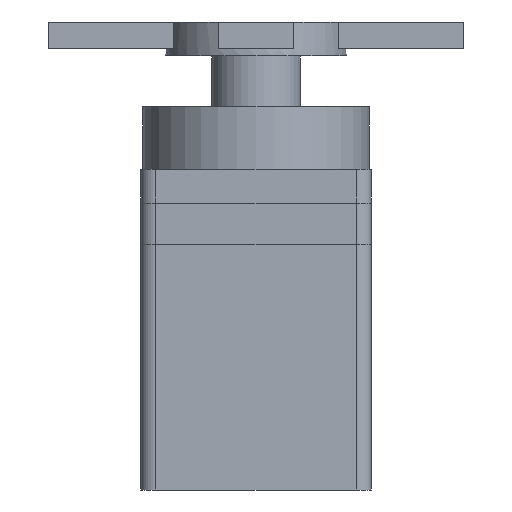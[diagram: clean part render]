
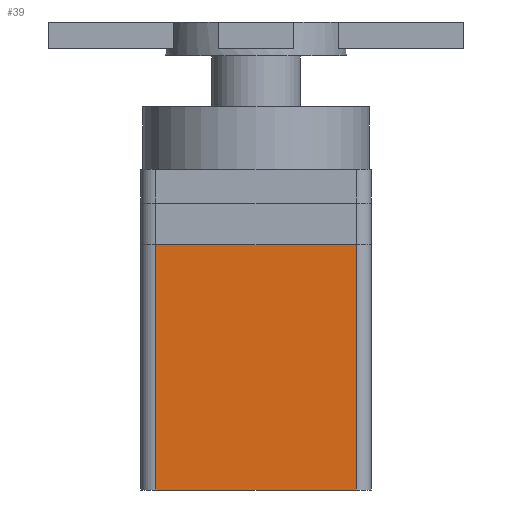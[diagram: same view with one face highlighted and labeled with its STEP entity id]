
A CAD part, left-side view. The second image highlights one B-rep face of the part: STEP entity #39.
In plain terms, the highlighted planar face has unit normal (-1, 0, 0).
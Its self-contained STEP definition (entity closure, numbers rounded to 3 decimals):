
#39 = ADVANCED_FACE('',(#40),#54,.F.);
#40 = FACE_BOUND('',#41,.F.);
#41 = EDGE_LOOP('',(#42,#75,#103,#131));
#42 = ORIENTED_EDGE('',*,*,#43,.T.);
#43 = EDGE_CURVE('',#44,#46,#48,.T.);
#44 = VERTEX_POINT('',#45);
#45 = CARTESIAN_POINT('',(-11.4,5.3,-8.));
#46 = VERTEX_POINT('',#47);
#47 = CARTESIAN_POINT('',(-11.4,-5.3,-8.));
#48 = SURFACE_CURVE('',#49,(#53,#64),.PCURVE_S1.);
#49 = LINE('',#50,#51);
#50 = CARTESIAN_POINT('',(-11.4,-6.1,-8.));
#51 = VECTOR('',#52,1.);
#52 = DIRECTION('',(0.,-1.,0.));
#53 = PCURVE('',#54,#59);
#54 = PLANE('',#55);
#55 = AXIS2_PLACEMENT_3D('',#56,#57,#58);
#56 = CARTESIAN_POINT('',(-11.4,-6.1,-21.));
#57 = DIRECTION('',(1.,0.,0.));
#58 = DIRECTION('',(0.,0.,1.));
#59 = DEFINITIONAL_REPRESENTATION('',(#60),#63);
#60 = B_SPLINE_CURVE_WITH_KNOTS('',1,(#61,#62),.UNSPECIFIED.,.F.,.F.,(2,
    2),(-12.2,0.),.PIECEWISE_BEZIER_KNOTS.);
#61 = CARTESIAN_POINT('',(13.,-12.2));
#62 = CARTESIAN_POINT('',(13.,0.));
#63 = ( GEOMETRIC_REPRESENTATION_CONTEXT(2) 
PARAMETRIC_REPRESENTATION_CONTEXT() REPRESENTATION_CONTEXT('2D SPACE',''
  ) );
#64 = PCURVE('',#65,#70);
#65 = PLANE('',#66);
#66 = AXIS2_PLACEMENT_3D('',#67,#68,#69);
#67 = CARTESIAN_POINT('',(-16.2,-6.1,-8.));
#68 = DIRECTION('',(0.,0.,1.));
#69 = DIRECTION('',(1.,0.,0.));
#70 = DEFINITIONAL_REPRESENTATION('',(#71),#74);
#71 = B_SPLINE_CURVE_WITH_KNOTS('',1,(#72,#73),.UNSPECIFIED.,.F.,.F.,(2,
    2),(-12.2,0.),.PIECEWISE_BEZIER_KNOTS.);
#72 = CARTESIAN_POINT('',(4.8,12.2));
#73 = CARTESIAN_POINT('',(4.8,0.));
#74 = ( GEOMETRIC_REPRESENTATION_CONTEXT(2) 
PARAMETRIC_REPRESENTATION_CONTEXT() REPRESENTATION_CONTEXT('2D SPACE',''
  ) );
#75 = ORIENTED_EDGE('',*,*,#76,.F.);
#76 = EDGE_CURVE('',#77,#46,#79,.T.);
#77 = VERTEX_POINT('',#78);
#78 = CARTESIAN_POINT('',(-11.4,-5.3,-21.));
#79 = SURFACE_CURVE('',#80,(#84,#91),.PCURVE_S1.);
#80 = LINE('',#81,#82);
#81 = CARTESIAN_POINT('',(-11.4,-5.3,-21.));
#82 = VECTOR('',#83,1.);
#83 = DIRECTION('',(0.,0.,1.));
#84 = PCURVE('',#54,#85);
#85 = DEFINITIONAL_REPRESENTATION('',(#86),#90);
#86 = LINE('',#87,#88);
#87 = CARTESIAN_POINT('',(0.,-0.8));
#88 = VECTOR('',#89,1.);
#89 = DIRECTION('',(1.,0.));
#90 = ( GEOMETRIC_REPRESENTATION_CONTEXT(2) 
PARAMETRIC_REPRESENTATION_CONTEXT() REPRESENTATION_CONTEXT('2D SPACE',''
  ) );
#91 = PCURVE('',#92,#97);
#92 = CYLINDRICAL_SURFACE('',#93,0.8);
#93 = AXIS2_PLACEMENT_3D('',#94,#95,#96);
#94 = CARTESIAN_POINT('',(-10.6,-5.3,-21.));
#95 = DIRECTION('',(0.,0.,1.));
#96 = DIRECTION('',(-1.,-0.,0.));
#97 = DEFINITIONAL_REPRESENTATION('',(#98),#102);
#98 = LINE('',#99,#100);
#99 = CARTESIAN_POINT('',(0.,0.));
#100 = VECTOR('',#101,1.);
#101 = DIRECTION('',(0.,1.));
#102 = ( GEOMETRIC_REPRESENTATION_CONTEXT(2) 
PARAMETRIC_REPRESENTATION_CONTEXT() REPRESENTATION_CONTEXT('2D SPACE',''
  ) );
#103 = ORIENTED_EDGE('',*,*,#104,.T.);
#104 = EDGE_CURVE('',#77,#105,#107,.T.);
#105 = VERTEX_POINT('',#106);
#106 = CARTESIAN_POINT('',(-11.4,5.3,-21.));
#107 = SURFACE_CURVE('',#108,(#112,#119),.PCURVE_S1.);
#108 = LINE('',#109,#110);
#109 = CARTESIAN_POINT('',(-11.4,-6.1,-21.));
#110 = VECTOR('',#111,1.);
#111 = DIRECTION('',(0.,1.,0.));
#112 = PCURVE('',#54,#113);
#113 = DEFINITIONAL_REPRESENTATION('',(#114),#118);
#114 = LINE('',#115,#116);
#115 = CARTESIAN_POINT('',(0.,0.));
#116 = VECTOR('',#117,1.);
#117 = DIRECTION('',(0.,-1.));
#118 = ( GEOMETRIC_REPRESENTATION_CONTEXT(2) 
PARAMETRIC_REPRESENTATION_CONTEXT() REPRESENTATION_CONTEXT('2D SPACE',''
  ) );
#119 = PCURVE('',#120,#125);
#120 = PLANE('',#121);
#121 = AXIS2_PLACEMENT_3D('',#122,#123,#124);
#122 = CARTESIAN_POINT('',(-11.4,-6.1,-21.));
#123 = DIRECTION('',(0.,0.,1.));
#124 = DIRECTION('',(1.,0.,0.));
#125 = DEFINITIONAL_REPRESENTATION('',(#126),#130);
#126 = LINE('',#127,#128);
#127 = CARTESIAN_POINT('',(0.,0.));
#128 = VECTOR('',#129,1.);
#129 = DIRECTION('',(0.,1.));
#130 = ( GEOMETRIC_REPRESENTATION_CONTEXT(2) 
PARAMETRIC_REPRESENTATION_CONTEXT() REPRESENTATION_CONTEXT('2D SPACE',''
  ) );
#131 = ORIENTED_EDGE('',*,*,#132,.T.);
#132 = EDGE_CURVE('',#105,#44,#133,.T.);
#133 = SURFACE_CURVE('',#134,(#138,#145),.PCURVE_S1.);
#134 = LINE('',#135,#136);
#135 = CARTESIAN_POINT('',(-11.4,5.3,-21.));
#136 = VECTOR('',#137,1.);
#137 = DIRECTION('',(0.,0.,1.));
#138 = PCURVE('',#54,#139);
#139 = DEFINITIONAL_REPRESENTATION('',(#140),#144);
#140 = LINE('',#141,#142);
#141 = CARTESIAN_POINT('',(0.,-11.4));
#142 = VECTOR('',#143,1.);
#143 = DIRECTION('',(1.,0.));
#144 = ( GEOMETRIC_REPRESENTATION_CONTEXT(2) 
PARAMETRIC_REPRESENTATION_CONTEXT() REPRESENTATION_CONTEXT('2D SPACE',''
  ) );
#145 = PCURVE('',#146,#151);
#146 = CYLINDRICAL_SURFACE('',#147,0.8);
#147 = AXIS2_PLACEMENT_3D('',#148,#149,#150);
#148 = CARTESIAN_POINT('',(-10.6,5.3,-21.));
#149 = DIRECTION('',(0.,0.,1.));
#150 = DIRECTION('',(-1.,-0.,0.));
#151 = DEFINITIONAL_REPRESENTATION('',(#152),#156);
#152 = LINE('',#153,#154);
#153 = CARTESIAN_POINT('',(-0.,0.));
#154 = VECTOR('',#155,1.);
#155 = DIRECTION('',(-0.,1.));
#156 = ( GEOMETRIC_REPRESENTATION_CONTEXT(2) 
PARAMETRIC_REPRESENTATION_CONTEXT() REPRESENTATION_CONTEXT('2D SPACE',''
  ) );
